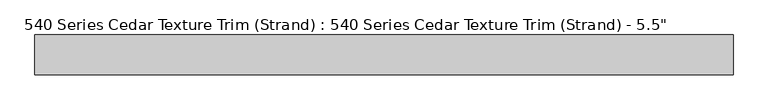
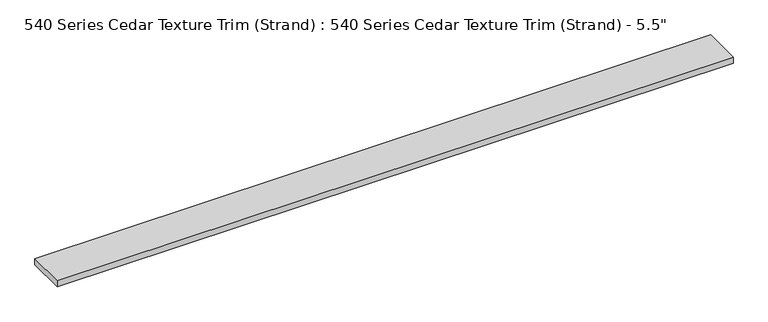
"""IFC4 building model written with IfcOpenShell, lengths in millimetres: proxy geometry."""

from ifc_helpers import new_model, si_unit, origin, origin_with_axes, place, context, project, spatial, polyline, outline, extrude, source, transform, mapped, element, save


def proxy_41040fe6(model_context):
    return source(origin(), model_context, "Body", "SweptSolid", [
        extrude(outline(polyline([(2438.4, 0.0), (0.0, 0.0), (0.0, 139.7), (2438.4, 139.7), (2438.4, 0.0)])), origin_with_axes(), (0.0, 0.0, 1.0), 23.1179687),
    ])


if __name__ == "__main__":
    model = new_model("IFC4")
    model_context = context("Model", 3, world=origin())
    ifc_project = project(units=[si_unit("LENGTHUNIT", "METRE", prefix="MILLI")], contexts=[model_context])
    site = spatial("IfcSite", under=ifc_project)
    building = spatial("IfcBuilding", under=site)
    placement = place(None, origin())
    proxy_shape = proxy_41040fe6(model_context)
    element("IfcBuildingElementProxy", 1, Name="540 Series Cedar Texture Trim (Strand) : 540 Series Cedar Texture Trim (Strand) - 5.5\"", ObjectType="540 Series Cedar Texture Trim (Strand) : 540 Series Cedar Texture Trim (Strand) - 5.5\"", at=placement, inside=building, context=model_context, shape_type="MappedRepresentation", body=[
        mapped(proxy_shape, transform((0.0, 0.0, 0.0), x_axis=(1.0, 0.0, 0.0), y_axis=(0.0, 1.0, 0.0), z_axis=(0.0, 0.0, 1.0))),
    ])
    save(model, "model.ifc")
